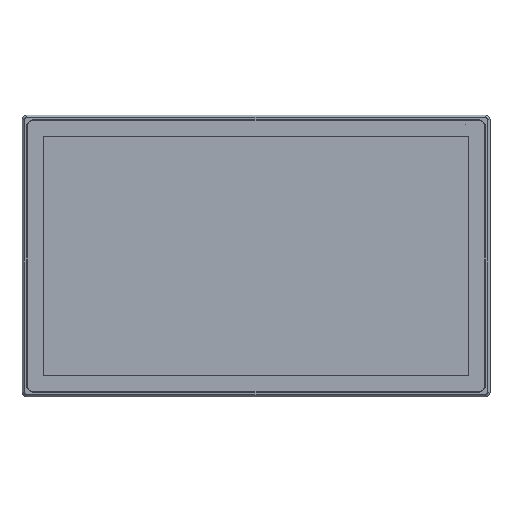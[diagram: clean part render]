
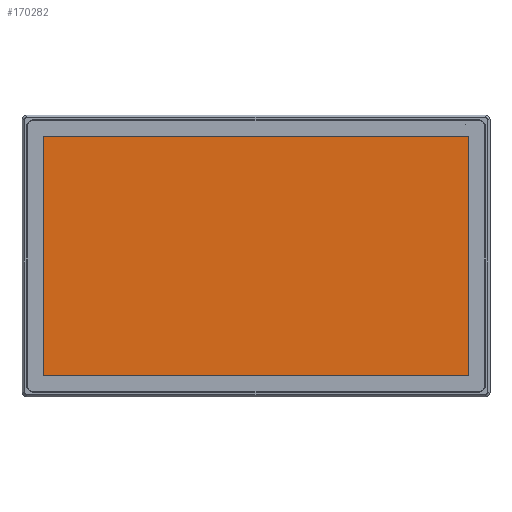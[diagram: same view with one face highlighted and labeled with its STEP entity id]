
A CAD part, top view. The second image highlights one B-rep face of the part: STEP entity #170282.
In plain terms, the highlighted planar face has unit normal (0, 0, 1).
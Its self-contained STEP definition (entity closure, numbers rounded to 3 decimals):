
#12101=PLANE('',#178930);
#20588=LINE('',#264592,#37644);
#20592=LINE('',#264600,#37648);
#20595=LINE('',#264606,#37651);
#20598=LINE('',#264611,#37654);
#37644=VECTOR('',#198978,10.);
#37648=VECTOR('',#198984,10.);
#37651=VECTOR('',#198989,10.);
#37654=VECTOR('',#198994,10.);
#54848=FACE_OUTER_BOUND('',#63759,.T.);
#63759=EDGE_LOOP('',(#133942,#133943,#133944,#133945));
#82507=VERTEX_POINT('',#264590);
#82508=VERTEX_POINT('',#264591);
#82511=VERTEX_POINT('',#264599);
#82513=VERTEX_POINT('',#264605);
#101616=EDGE_CURVE('',#82507,#82508,#20588,.T.);
#101620=EDGE_CURVE('',#82508,#82511,#20592,.T.);
#101623=EDGE_CURVE('',#82511,#82513,#20595,.T.);
#101626=EDGE_CURVE('',#82513,#82507,#20598,.T.);
#133942=ORIENTED_EDGE('',*,*,#101616,.T.);
#133943=ORIENTED_EDGE('',*,*,#101620,.T.);
#133944=ORIENTED_EDGE('',*,*,#101623,.T.);
#133945=ORIENTED_EDGE('',*,*,#101626,.T.);
#170282=ADVANCED_FACE('',(#54848),#12101,.T.);
#178930=AXIS2_PLACEMENT_3D('',#264613,#198996,#198997);
#198978=DIRECTION('',(0.,-1.,0.));
#198984=DIRECTION('',(1.,0.,0.));
#198989=DIRECTION('',(0.,1.,0.));
#198994=DIRECTION('',(-1.,0.,0.));
#198996=DIRECTION('center_axis',(0.,0.,
1.));
#198997=DIRECTION('ref_axis',(1.,0.,0.));
#264590=CARTESIAN_POINT('',(-265.68,149.445,1.99));
#264591=CARTESIAN_POINT('',(-265.68,-149.445,1.99));
#264592=CARTESIAN_POINT('',(-265.68,-149.445,1.99));
#264599=CARTESIAN_POINT('',(265.68,-149.445,1.99));
#264600=CARTESIAN_POINT('',(265.68,-149.445,1.99));
#264605=CARTESIAN_POINT('',(265.68,149.445,1.99));
#264606=CARTESIAN_POINT('',(265.68,149.445,1.99));
#264611=CARTESIAN_POINT('',(-265.68,149.445,1.99));
#264613=CARTESIAN_POINT('Origin',(0.,0.,
1.99));
